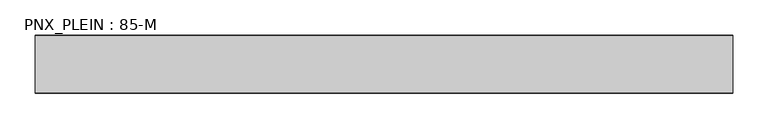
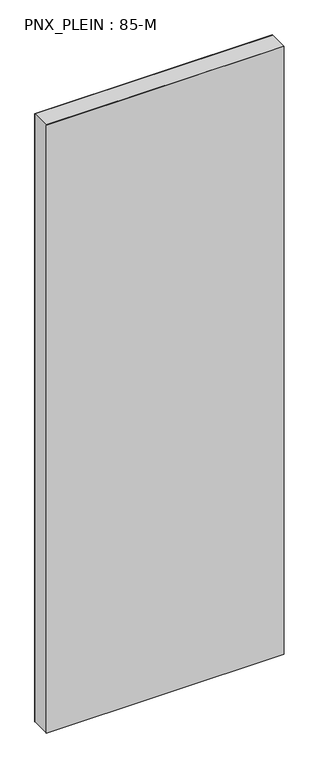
"""IFC4 building model written with IfcOpenShell, lengths in millimetres: plate geometry, PNX_PLEIN : 85-M."""

from ifc_helpers import new_model, si_unit, origin, origin_with_axes, place, context, project, spatial, polyline, outline, extrude, source, transform, mapped, element, save


def pnx_plein_85_m_493c74b2(model_context):
    return source(origin(), model_context, "Body", "SweptSolid", [
        extrude(outline(polyline([(497.0, -40.5), (-497.0, -40.5), (-497.0, 40.5), (497.0, 40.5), (497.0, -40.5)])), origin_with_axes(), (0.0, 0.0, 1.0), 2685.0),
        extrude(outline(polyline([(497.0, -41.5), (-497.0, -41.5), (-497.0, -40.5), (497.0, -40.5), (497.0, -41.5)])), origin_with_axes(), (0.0, 0.0, 1.0), 2685.0),
        extrude(outline(polyline([(497.0, 40.5), (-497.0, 40.5), (-497.0, 41.5), (497.0, 41.5), (497.0, 40.5)])), origin_with_axes(), (0.0, 0.0, 1.0), 2685.0),
    ])


if __name__ == "__main__":
    model = new_model("IFC4")
    model_context = context("Model", 3, world=origin())
    ifc_project = project(units=[si_unit("LENGTHUNIT", "METRE", prefix="MILLI")], contexts=[model_context])
    site = spatial("IfcSite", under=ifc_project)
    building = spatial("IfcBuilding", under=site)
    placement = place(None, origin())
    pnx_plein_85_m_shape = pnx_plein_85_m_493c74b2(model_context)
    element("IfcPlate", 1, ObjectType="PNX_PLEIN : 85-M", at=placement, inside=building, context=model_context, shape_type="MappedRepresentation", body=[
        mapped(pnx_plein_85_m_shape, transform((0.0, 0.0, 0.0), x_axis=(1.0, 0.0, 0.0), y_axis=(0.0, 1.0, 0.0), z_axis=(0.0, 0.0, 1.0))),
    ])
    save(model, "model.ifc")
